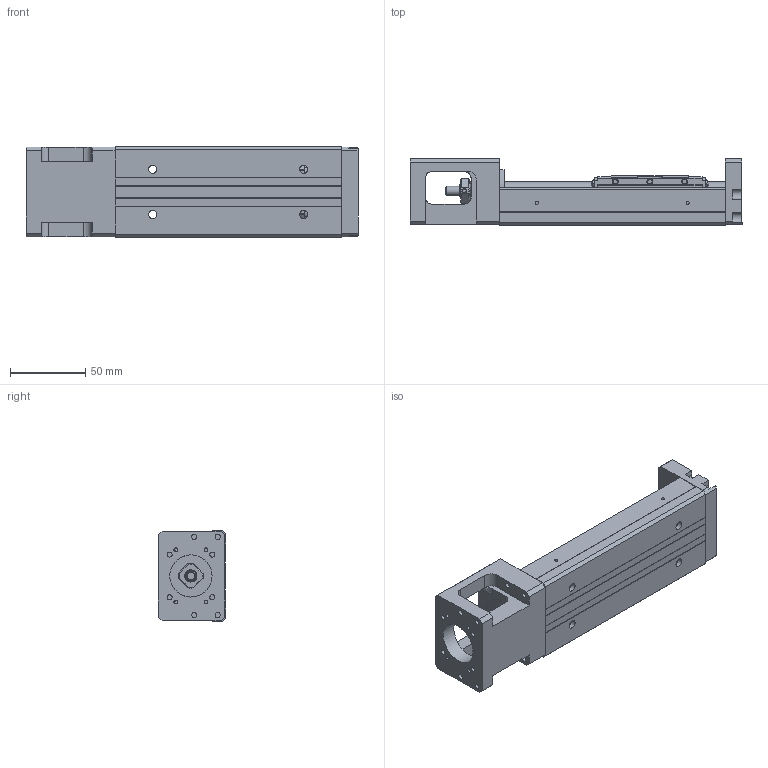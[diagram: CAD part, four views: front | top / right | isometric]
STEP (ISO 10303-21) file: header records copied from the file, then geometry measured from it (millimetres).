
FILE_DESCRIPTION(/* description */ (''),/* implementation_level */ '2;1');
FILE_NAME(/* name */ 'KP33N-150.stp',/* time_stamp */ '2019-02-25T14:27:43+08:00',/* author */ (''),/* organization */ (''),/* preprocessor_version */ 'ST-DEVELOPER v11',/* originating_system */ 'SIEMENS UGS NX 6.0',/* authorisation */ '');
FILE_SCHEMA (('CONFIG_CONTROL_DESIGN'));
Length unit declared in the file: millimetre
Products named in the file (1): darrFF5Egx05
Bounding box: 220 x 44.45 x 60 mm (x, y, z)
Volume: 310261.2 mm3; surface area: 87525.1 mm2
Topology: 5 solids, 10 shells, 606 faces, 1557 edges, 1026 vertices
Faces by surface type: plane 359, cylinder 160, bspline 31, cone 24, extrusion 21, torus 9, revolution 2
Full cylindrical faces by diameter (mm): 1.6 x2, 1.65 x4, 2.15 x2, 2.42 x4, 2.45 x4, 2.5 x4, 3 x3, 3.2 x4, 3.3 x4, 3.4 x3, 3.5 x10, 3.969 x1, 4 x6, 4.001 x1, 4.135 x4, 5.5 x4, 6 x5, 7.6 x1, 8 x5, 9.5 x4, 10.72 x3, 11.8 x2, 12 x1, 12.8 x1, 13 x2, 14 x1, 17.38 x3, 21.5 x1, 22 x2, 28 x1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
Entity records: 29907 total; most frequent: CARTESIAN_POINT 15895, DIRECTION 2772, ORIENTED_EDGE 2736, EDGE_CURVE 1368, AXIS2_PLACEMENT_3D 964, VERTEX_POINT 963, EDGE_LOOP 851, VECTOR 842
